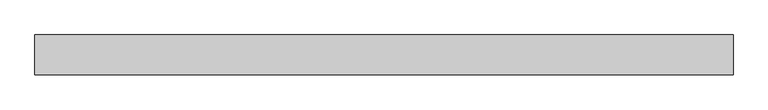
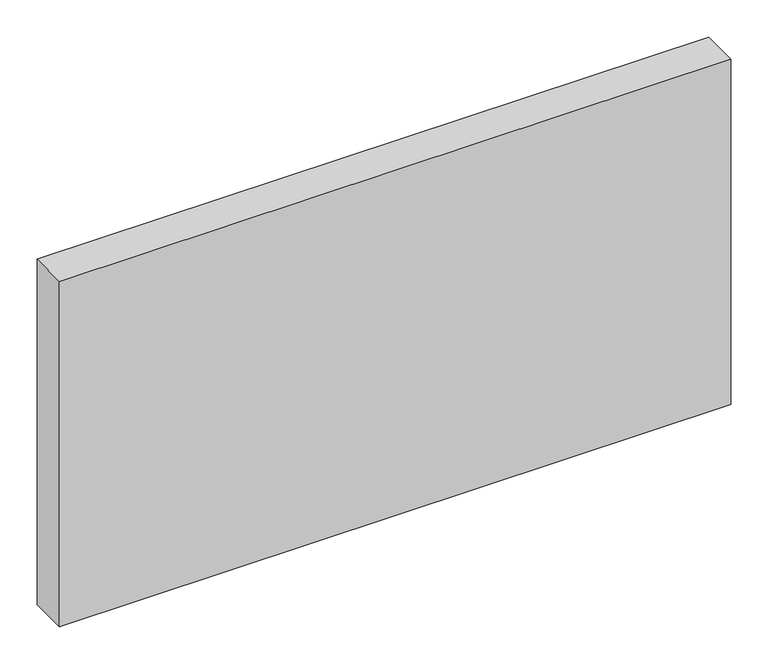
"""IFC4 building model written with IfcOpenShell, lengths in millimetres: plate geometry, Системная панель : Алюкобонд серый."""

from ifc_helpers import new_model, si_unit, origin, origin_with_axes, place, context, project, spatial, polyline, outline, extrude, source, transform, mapped, element, save


def plate_47bcf15f(model_context):
    return source(origin(), model_context, "Body", "SweptSolid", [
        extrude(outline(polyline([(523.7047294, -49.5), (-523.7047294, -49.5), (-523.7047294, 10.5), (523.7047294, 10.5), (523.7047294, -49.5)])), origin_with_axes(), (0.0, 0.0, 1.0), 570.0),
    ])


if __name__ == "__main__":
    model = new_model("IFC4")
    model_context = context("Model", 3, world=origin())
    ifc_project = project(units=[si_unit("LENGTHUNIT", "METRE", prefix="MILLI")], contexts=[model_context])
    site = spatial("IfcSite", under=ifc_project)
    building = spatial("IfcBuilding", under=site)
    placement = place(None, origin())
    plate_shape = plate_47bcf15f(model_context)
    element("IfcPlate", 1, ObjectType="Системная панель : Алюкобонд серый", at=placement, inside=building, context=model_context, shape_type="MappedRepresentation", body=[
        mapped(plate_shape, transform((0.0, 0.0, 0.0), x_axis=(1.0, 0.0, 0.0), y_axis=(0.0, 1.0, 0.0), z_axis=(0.0, 0.0, 1.0))),
    ])
    save(model, "model.ifc")
